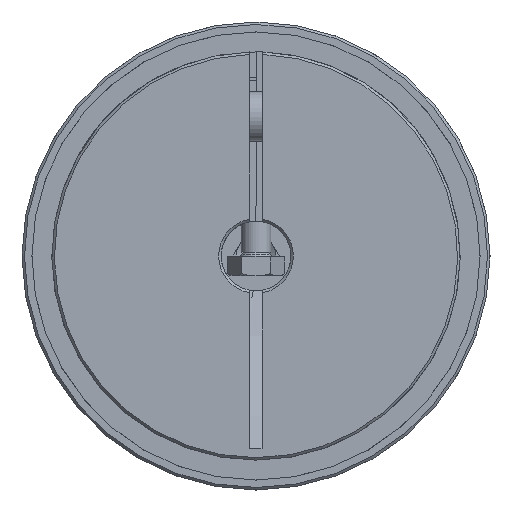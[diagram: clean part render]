
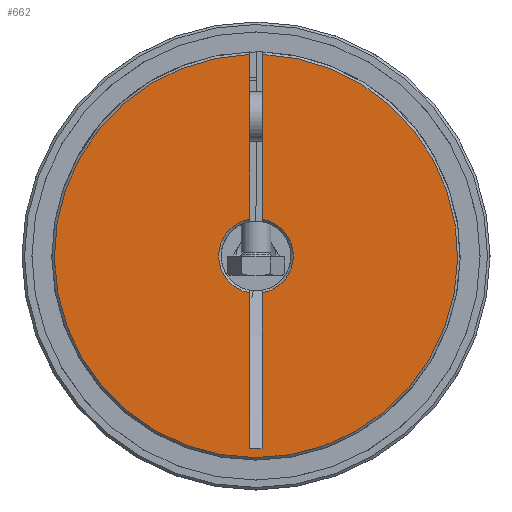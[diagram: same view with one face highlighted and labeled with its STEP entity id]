
A CAD part, left-side view. The second image highlights one B-rep face of the part: STEP entity #662.
In plain terms, the highlighted planar face has unit normal (-1, 0, 0).
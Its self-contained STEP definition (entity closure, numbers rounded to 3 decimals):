
#662 = ADVANCED_FACE( 'NONE', ( #1408 ), #1409, .F. );
#1408 = FACE_OUTER_BOUND( '', #2085, .T. );
#1409 = PLANE( '', #2086 );
#2085 = EDGE_LOOP( '', ( #3320, #3321, #3322, #3323, #3324, #3325, #3326, #3327 ) );
#2086 = AXIS2_PLACEMENT_3D( '', #3328, #3329, #3330 );
#3320 = ORIENTED_EDGE( '', *, *, #3852, .T. );
#3321 = ORIENTED_EDGE( '', *, *, #3853, .T. );
#3322 = ORIENTED_EDGE( '', *, *, #3854, .T. );
#3323 = ORIENTED_EDGE( '', *, *, #3855, .T. );
#3324 = ORIENTED_EDGE( '', *, *, #3856, .F. );
#3325 = ORIENTED_EDGE( '', *, *, #3857, .T. );
#3326 = ORIENTED_EDGE( '', *, *, #3858, .F. );
#3327 = ORIENTED_EDGE( '', *, *, #3859, .T. );
#3328 = CARTESIAN_POINT( '', ( 0., 7., 0. ) );
#3329 = DIRECTION( '', ( 1., 0., 0. ) );
#3330 = DIRECTION( '', ( 0., 1., 0. ) );
#3852 = EDGE_CURVE( 'NONE', #4451, #4452, #4453, .T. );
#3853 = EDGE_CURVE( 'NONE', #4452, #4454, #4455, .T. );
#3854 = EDGE_CURVE( 'NONE', #4454, #4456, #4457, .T. );
#3855 = EDGE_CURVE( 'NONE', #4456, #4458, #4459, .F. );
#3856 = EDGE_CURVE( 'NONE', #4460, #4458, #4461, .F. );
#3857 = EDGE_CURVE( 'NONE', #4460, #4462, #4463, .T. );
#3858 = EDGE_CURVE( 'NONE', #4464, #4462, #4465, .F. );
#3859 = EDGE_CURVE( 'NONE', #4464, #4451, #4466, .T. );
#4451 = VERTEX_POINT( 'NONE', #5558 );
#4452 = VERTEX_POINT( 'NONE', #5559 );
#4453 = LINE( '', #5560, #5561 );
#4454 = VERTEX_POINT( 'NONE', #5562 );
#4455 = CIRCLE( '', #5563, 7.5 );
#4456 = VERTEX_POINT( 'NONE', #5564 );
#4457 = LINE( '', #5565, #5566 );
#4458 = VERTEX_POINT( 'NONE', #5567 );
#4459 = CIRCLE( '', #5568, 40.5 );
#4460 = VERTEX_POINT( 'NONE', #5569 );
#4461 = LINE( '', #5570, #5571 );
#4462 = VERTEX_POINT( 'NONE', #5572 );
#4463 = CIRCLE( '', #5573, 7.5 );
#4464 = VERTEX_POINT( 'NONE', #5574 );
#4465 = LINE( '', #5575, #5576 );
#4466 = LINE( '', #5577, #5578 );
#5558 = CARTESIAN_POINT( '', ( 0., 1.3, -38.697 ) );
#5559 = CARTESIAN_POINT( '', ( 0., 1.3, -7.386 ) );
#5560 = CARTESIAN_POINT( '', ( 0., 1.3, 0. ) );
#5561 = VECTOR( '', #6386, 1000. );
#5562 = CARTESIAN_POINT( '', ( 0., 1.3, 7.386 ) );
#5563 = AXIS2_PLACEMENT_3D( '', #6387, #6388, #6389 );
#5564 = CARTESIAN_POINT( '', ( 0., 1.3, 40.479 ) );
#5565 = CARTESIAN_POINT( '', ( 0., 1.3, 0. ) );
#5566 = VECTOR( '', #6390, 1000. );
#5567 = CARTESIAN_POINT( '', ( 0., -1.3, 40.479 ) );
#5568 = AXIS2_PLACEMENT_3D( '', #6391, #6392, #6393 );
#5569 = CARTESIAN_POINT( '', ( 0., -1.3, 7.386 ) );
#5570 = CARTESIAN_POINT( '', ( 0., -1.3, 11. ) );
#5571 = VECTOR( '', #6394, 1000. );
#5572 = CARTESIAN_POINT( '', ( 0., -1.3, -7.386 ) );
#5573 = AXIS2_PLACEMENT_3D( '', #6395, #6396, #6397 );
#5574 = CARTESIAN_POINT( '', ( 0., -1.3, -38.697 ) );
#5575 = CARTESIAN_POINT( '', ( 0., -1.3, 11. ) );
#5576 = VECTOR( '', #6398, 1000. );
#5577 = CARTESIAN_POINT( '', ( 0., -1.3, -38.697 ) );
#5578 = VECTOR( '', #6399, 1000. );
#6386 = DIRECTION( '', ( 0., 0., 1. ) );
#6387 = CARTESIAN_POINT( '', ( 0., 0., 0. ) );
#6388 = DIRECTION( '', ( 1., 0., 0. ) );
#6389 = DIRECTION( '', ( 0., 0., -1. ) );
#6390 = DIRECTION( '', ( 0., 0., 1. ) );
#6391 = CARTESIAN_POINT( '', ( 0., 0., 0. ) );
#6392 = DIRECTION( '', ( 1., 0., 0. ) );
#6393 = DIRECTION( '', ( 0., 0., -1. ) );
#6394 = DIRECTION( '', ( 0., 0., -1. ) );
#6395 = CARTESIAN_POINT( '', ( 0., 0., 0. ) );
#6396 = DIRECTION( '', ( 1., 0., 0. ) );
#6397 = DIRECTION( '', ( 0., 0., -1. ) );
#6398 = DIRECTION( '', ( 0., 0., -1. ) );
#6399 = DIRECTION( '', ( 0., 1., 0. ) );
